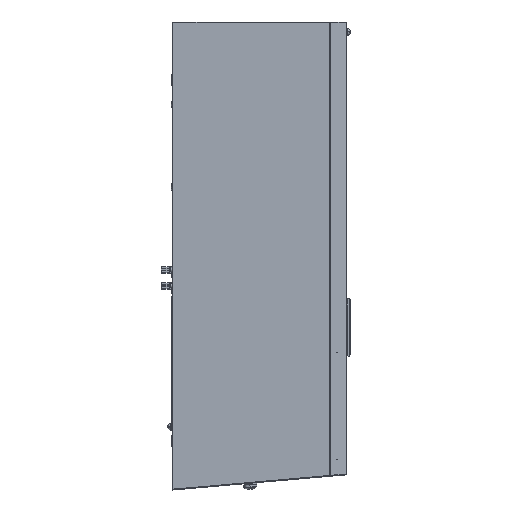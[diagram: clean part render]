
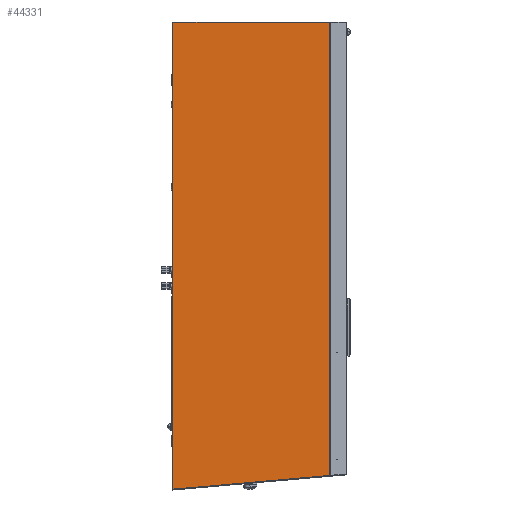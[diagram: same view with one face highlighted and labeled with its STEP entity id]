
A CAD part, left-side view. The second image highlights one B-rep face of the part: STEP entity #44331.
In plain terms, the highlighted planar face has unit normal (-1, 0, 0).
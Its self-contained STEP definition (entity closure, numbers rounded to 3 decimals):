
#31273 = DIRECTION ( 'NONE',  ( 0., 0., -1. ) ) ;
#31275 = DIRECTION ( 'NONE',  ( -1., 0., 0. ) ) ;
#31277 = AXIS2_PLACEMENT_3D ( 'NONE', #31428, #31275, #31273 ) ;
#31378 = CARTESIAN_POINT ( 'NONE',  ( -29., 78.487, 208.29 ) ) ;
#31380 = DIRECTION ( 'NONE',  ( 0., -1., 0. ) ) ;
#31381 = VECTOR ( 'NONE', #31380, 1000. ) ;
#31383 = CARTESIAN_POINT ( 'NONE',  ( -29., 79.987, 208.29 ) ) ;
#31385 = LINE ( 'NONE', #31383, #31381 ) ;
#31428 = CARTESIAN_POINT ( 'NONE',  ( -29., 79.987, -354.71 ) ) ;
#31430 = PLANE ( 'NONE',  #31277 ) ;
#31433 = FACE_OUTER_BOUND ( 'NONE', #44332, .T. ) ;
#31786 = CARTESIAN_POINT ( 'NONE',  ( -29., -110.184, 208.29 ) ) ;
#31870 = DIRECTION ( 'NONE',  ( 0., 0., 1. ) ) ;
#31872 = VECTOR ( 'NONE', #31870, 1000. ) ;
#31874 = CARTESIAN_POINT ( 'NONE',  ( -29., -110.184, -354.71 ) ) ;
#31875 = LINE ( 'NONE', #31874, #31872 ) ;
#31880 = CARTESIAN_POINT ( 'NONE',  ( -29., -110.184, -338.072 ) ) ;
#31882 = DIRECTION ( 'NONE',  ( 0., 0.996, -0.087 ) ) ;
#31884 = VECTOR ( 'NONE', #31882, 1000. ) ;
#31886 = CARTESIAN_POINT ( 'NONE',  ( -29., 79.987, -354.71 ) ) ;
#31887 = LINE ( 'NONE', #31886, #31884 ) ;
#31900 = CARTESIAN_POINT ( 'NONE',  ( -29., 78.487, -354.579 ) ) ;
#31901 = DIRECTION ( 'NONE',  ( 0., 0., 1. ) ) ;
#31903 = VECTOR ( 'NONE', #31901, 1000. ) ;
#31905 = CARTESIAN_POINT ( 'NONE',  ( -29., 78.487, -354.71 ) ) ;
#31919 = LINE ( 'NONE', #31905, #31903 ) ;
#44331 = ADVANCED_FACE ( 'NONE', ( #31433 ), #31430, .T. ) ;
#44332 = EDGE_LOOP ( 'NONE', ( #44335, #44382, #44388, #44394 ) ) ;
#44335 = ORIENTED_EDGE ( 'NONE', *, *, #44336, .F. ) ;
#44336 = EDGE_CURVE ( 'NONE', #44337, #44380, #31385, .T. ) ;
#44337 = VERTEX_POINT ( 'NONE', #31378 ) ;
#44380 = VERTEX_POINT ( 'NONE', #31786 ) ;
#44382 = ORIENTED_EDGE ( 'NONE', *, *, #44385, .F. ) ;
#44385 = EDGE_CURVE ( 'NONE', #44386, #44337, #31919, .T. ) ;
#44386 = VERTEX_POINT ( 'NONE', #31900 ) ;
#44388 = ORIENTED_EDGE ( 'NONE', *, *, #44390, .F. ) ;
#44390 = EDGE_CURVE ( 'NONE', #44391, #44386, #31887, .T. ) ;
#44391 = VERTEX_POINT ( 'NONE', #31880 ) ;
#44394 = ORIENTED_EDGE ( 'NONE', *, *, #44396, .T. ) ;
#44396 = EDGE_CURVE ( 'NONE', #44391, #44380, #31875, .T. ) ;
